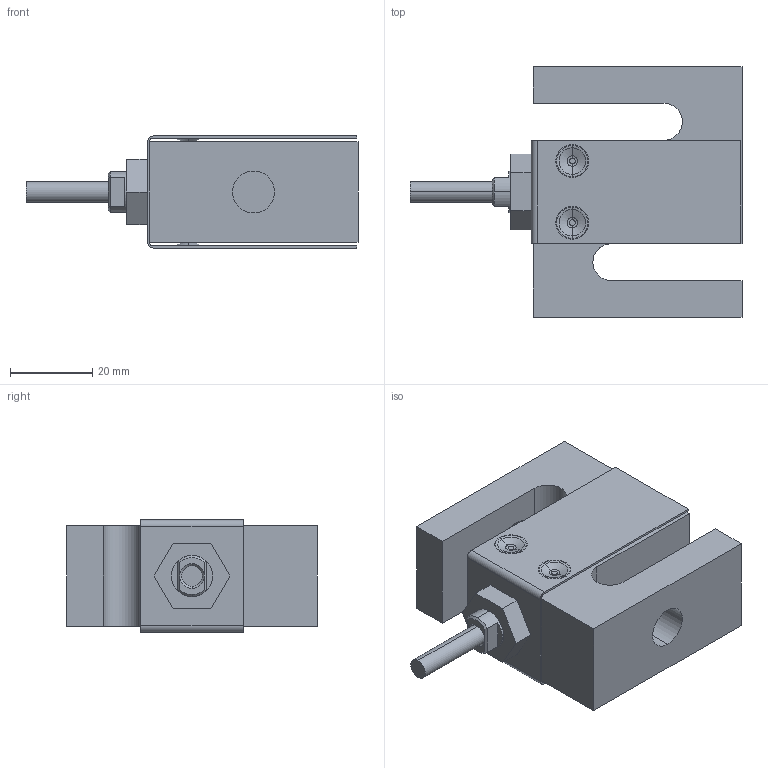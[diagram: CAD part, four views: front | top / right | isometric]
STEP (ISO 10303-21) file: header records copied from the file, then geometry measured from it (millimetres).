
FILE_DESCRIPTION (( 'STEP AP214' ), '1' );
FILE_NAME ('B3G-1t assy.STEP', '2012-01-27T08:02:45', ( 'Gebruiker' ), ( 'Microsoft' ), 'SwSTEP 2.0', 'SolidWorks 2011', '' );
FILE_SCHEMA (( 'AUTOMOTIVE_DESIGN' ));
Length unit declared in the file: millimetre
Products named in the file (9): hex thin nut gradeb_iso_Hexagon Nut ISO - 4036 - M10 - S; B3G-1t cover; Cover 1t; B3G conduit adaptor; B3G cable; B3G-1t gage potting; B3G-1t element; B3G-1t assy; Cover part indrukking
Assembly tree (11 placements, depth 3):
  B3G-1t assy
    B3G-1t gage potting
    B3G cable
    B3G-1t cover
      Cover part indrukking  x4
      Cover 1t
    B3G-1t element
    B3G conduit adaptor
    hex thin nut gradeb_iso_Hexagon Nut ISO - 4036 - M10 - S
Bounding box: 80.8 x 60.96 x 27.28 mm (x, y, z)
Volume: 62266.8 mm3; surface area: 26602.7 mm2
Topology: 10 solids, 10 shells, 203 faces, 453 edges, 277 vertices
Faces by surface type: plane 67, cylinder 57, cone 47, torus 32
Entity records: 4788 total; most frequent: DIRECTION 830, CARTESIAN_POINT 744, ORIENTED_EDGE 702, EDGE_CURVE 351, AXIS2_PLACEMENT_3D 319, VERTEX_POINT 217, LINE 192, VECTOR 192
